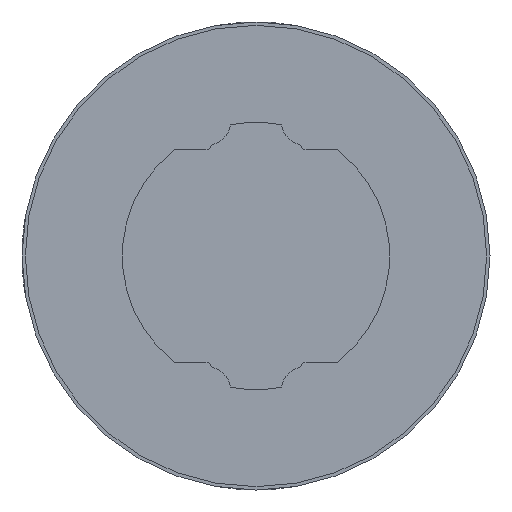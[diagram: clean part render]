
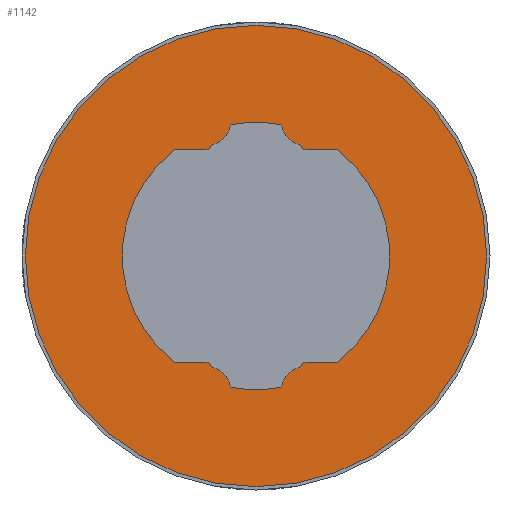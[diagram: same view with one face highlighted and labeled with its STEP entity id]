
A CAD part, left-side view. The second image highlights one B-rep face of the part: STEP entity #1142.
In plain terms, the highlighted planar face has unit normal (-1, 0, 0).
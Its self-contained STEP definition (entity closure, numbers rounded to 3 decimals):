
#46=PLANE('',#1265);
#101=LINE('',#1872,#189);
#102=LINE('',#1876,#190);
#103=LINE('',#1880,#191);
#104=LINE('',#1884,#192);
#105=LINE('',#1896,#193);
#106=LINE('',#1900,#194);
#107=LINE('',#1904,#195);
#108=LINE('',#1908,#196);
#189=VECTOR('',#1518,1000.);
#190=VECTOR('',#1521,1000.);
#191=VECTOR('',#1524,1000.);
#192=VECTOR('',#1527,1000.);
#193=VECTOR('',#1538,1000.);
#194=VECTOR('',#1541,1000.);
#195=VECTOR('',#1544,1000.);
#196=VECTOR('',#1547,1000.);
#381=ORIENTED_EDGE('',*,*,#641,.F.);
#382=ORIENTED_EDGE('',*,*,#642,.F.);
#383=ORIENTED_EDGE('',*,*,#643,.T.);
#384=ORIENTED_EDGE('',*,*,#644,.F.);
#385=ORIENTED_EDGE('',*,*,#645,.T.);
#386=ORIENTED_EDGE('',*,*,#646,.F.);
#387=ORIENTED_EDGE('',*,*,#647,.F.);
#388=ORIENTED_EDGE('',*,*,#648,.T.);
#389=ORIENTED_EDGE('',*,*,#649,.F.);
#390=ORIENTED_EDGE('',*,*,#650,.F.);
#391=ORIENTED_EDGE('',*,*,#651,.F.);
#392=ORIENTED_EDGE('',*,*,#652,.T.);
#393=ORIENTED_EDGE('',*,*,#653,.F.);
#394=ORIENTED_EDGE('',*,*,#654,.F.);
#395=ORIENTED_EDGE('',*,*,#655,.T.);
#396=ORIENTED_EDGE('',*,*,#656,.F.);
#397=ORIENTED_EDGE('',*,*,#657,.T.);
#398=ORIENTED_EDGE('',*,*,#658,.F.);
#399=ORIENTED_EDGE('',*,*,#659,.F.);
#400=ORIENTED_EDGE('',*,*,#660,.T.);
#401=ORIENTED_EDGE('',*,*,#661,.F.);
#402=ORIENTED_EDGE('',*,*,#662,.F.);
#403=ORIENTED_EDGE('',*,*,#663,.F.);
#404=ORIENTED_EDGE('',*,*,#664,.T.);
#405=ORIENTED_EDGE('',*,*,#665,.F.);
#641=EDGE_CURVE('',#783,#783,#881,.T.);
#642=EDGE_CURVE('',#784,#785,#882,.F.);
#643=EDGE_CURVE('',#784,#786,#883,.F.);
#644=EDGE_CURVE('',#787,#786,#884,.F.);
#645=EDGE_CURVE('',#787,#788,#885,.F.);
#646=EDGE_CURVE('',#789,#788,#886,.F.);
#647=EDGE_CURVE('',#790,#789,#101,.T.);
#648=EDGE_CURVE('',#790,#791,#887,.F.);
#649=EDGE_CURVE('',#792,#791,#102,.T.);
#650=EDGE_CURVE('',#793,#792,#888,.F.);
#651=EDGE_CURVE('',#794,#793,#103,.T.);
#652=EDGE_CURVE('',#794,#795,#889,.F.);
#653=EDGE_CURVE('',#796,#795,#104,.T.);
#654=EDGE_CURVE('',#797,#796,#890,.F.);
#655=EDGE_CURVE('',#797,#798,#891,.F.);
#656=EDGE_CURVE('',#799,#798,#892,.F.);
#657=EDGE_CURVE('',#799,#800,#893,.F.);
#658=EDGE_CURVE('',#801,#800,#894,.F.);
#659=EDGE_CURVE('',#802,#801,#105,.T.);
#660=EDGE_CURVE('',#802,#803,#895,.F.);
#661=EDGE_CURVE('',#804,#803,#106,.T.);
#662=EDGE_CURVE('',#805,#804,#896,.F.);
#663=EDGE_CURVE('',#806,#805,#107,.T.);
#664=EDGE_CURVE('',#806,#807,#897,.F.);
#665=EDGE_CURVE('',#785,#807,#108,.T.);
#783=VERTEX_POINT('',#1860);
#784=VERTEX_POINT('',#1862);
#785=VERTEX_POINT('',#1863);
#786=VERTEX_POINT('',#1865);
#787=VERTEX_POINT('',#1867);
#788=VERTEX_POINT('',#1869);
#789=VERTEX_POINT('',#1871);
#790=VERTEX_POINT('',#1873);
#791=VERTEX_POINT('',#1875);
#792=VERTEX_POINT('',#1877);
#793=VERTEX_POINT('',#1879);
#794=VERTEX_POINT('',#1881);
#795=VERTEX_POINT('',#1883);
#796=VERTEX_POINT('',#1885);
#797=VERTEX_POINT('',#1887);
#798=VERTEX_POINT('',#1889);
#799=VERTEX_POINT('',#1891);
#800=VERTEX_POINT('',#1893);
#801=VERTEX_POINT('',#1895);
#802=VERTEX_POINT('',#1897);
#803=VERTEX_POINT('',#1899);
#804=VERTEX_POINT('',#1901);
#805=VERTEX_POINT('',#1903);
#806=VERTEX_POINT('',#1905);
#807=VERTEX_POINT('',#1907);
#881=CIRCLE('',#1266,13.8);
#882=CIRCLE('',#1267,0.3);
#883=CIRCLE('',#1268,1.4);
#884=CIRCLE('',#1269,8.);
#885=CIRCLE('',#1270,1.4);
#886=CIRCLE('',#1271,0.3);
#887=CIRCLE('',#1272,0.3);
#888=CIRCLE('',#1273,8.);
#889=CIRCLE('',#1274,0.3);
#890=CIRCLE('',#1275,0.3);
#891=CIRCLE('',#1276,1.4);
#892=CIRCLE('',#1277,8.);
#893=CIRCLE('',#1278,1.4);
#894=CIRCLE('',#1279,0.3);
#895=CIRCLE('',#1280,0.3);
#896=CIRCLE('',#1281,8.);
#897=CIRCLE('',#1282,0.3);
#947=EDGE_LOOP('',(#381));
#948=EDGE_LOOP('',(#382,#383,#384,#385,#386,#387,#388,#389,#390,#391,#392,
#393,#394,#395,#396,#397,#398,#399,#400,#401,#402,#403,#404,#405));
#1025=FACE_BOUND('',#947,.T.);
#1026=FACE_BOUND('',#948,.T.);
#1142=ADVANCED_FACE('',(#1025,#1026),#46,.F.);
#1265=AXIS2_PLACEMENT_3D('',#1858,#1504,#1505);
#1266=AXIS2_PLACEMENT_3D('',#1859,#1506,#1507);
#1267=AXIS2_PLACEMENT_3D('',#1861,#1508,#1509);
#1268=AXIS2_PLACEMENT_3D('',#1864,#1510,#1511);
#1269=AXIS2_PLACEMENT_3D('',#1866,#1512,#1513);
#1270=AXIS2_PLACEMENT_3D('',#1868,#1514,#1515);
#1271=AXIS2_PLACEMENT_3D('',#1870,#1516,#1517);
#1272=AXIS2_PLACEMENT_3D('',#1874,#1519,#1520);
#1273=AXIS2_PLACEMENT_3D('',#1878,#1522,#1523);
#1274=AXIS2_PLACEMENT_3D('',#1882,#1525,#1526);
#1275=AXIS2_PLACEMENT_3D('',#1886,#1528,#1529);
#1276=AXIS2_PLACEMENT_3D('',#1888,#1530,#1531);
#1277=AXIS2_PLACEMENT_3D('',#1890,#1532,#1533);
#1278=AXIS2_PLACEMENT_3D('',#1892,#1534,#1535);
#1279=AXIS2_PLACEMENT_3D('',#1894,#1536,#1537);
#1280=AXIS2_PLACEMENT_3D('',#1898,#1539,#1540);
#1281=AXIS2_PLACEMENT_3D('',#1902,#1542,#1543);
#1282=AXIS2_PLACEMENT_3D('',#1906,#1545,#1546);
#1504=DIRECTION('',(1.,0.,0.));
#1505=DIRECTION('',(0.,0.,-1.));
#1506=DIRECTION('',(1.,0.,0.));
#1507=DIRECTION('',(0.,0.,-1.));
#1508=DIRECTION('',(1.,0.,0.));
#1509=DIRECTION('',(0.,0.,-1.));
#1510=DIRECTION('',(1.,0.,0.));
#1511=DIRECTION('',(0.,0.,-1.));
#1512=DIRECTION('',(1.,0.,0.));
#1513=DIRECTION('',(0.,0.,-1.));
#1514=DIRECTION('',(1.,0.,0.));
#1515=DIRECTION('',(0.,0.,-1.));
#1516=DIRECTION('',(1.,0.,0.));
#1517=DIRECTION('',(0.,0.,-1.));
#1518=DIRECTION('',(0.,0.5,0.866));
#1519=DIRECTION('',(1.,0.,0.));
#1520=DIRECTION('',(0.,0.,-1.));
#1521=DIRECTION('',(0.,1.,0.));
#1522=DIRECTION('',(1.,0.,0.));
#1523=DIRECTION('',(0.,0.,-1.));
#1524=DIRECTION('',(0.,-1.,0.));
#1525=DIRECTION('',(1.,0.,0.));
#1526=DIRECTION('',(0.,0.,-1.));
#1527=DIRECTION('',(0.,-0.5,0.866));
#1528=DIRECTION('',(1.,0.,0.));
#1529=DIRECTION('',(0.,0.,-1.));
#1530=DIRECTION('',(1.,0.,0.));
#1531=DIRECTION('',(0.,0.,-1.));
#1532=DIRECTION('',(1.,0.,0.));
#1533=DIRECTION('',(0.,0.,-1.));
#1534=DIRECTION('',(1.,0.,0.));
#1535=DIRECTION('',(0.,0.,-1.));
#1536=DIRECTION('',(1.,0.,0.));
#1537=DIRECTION('',(0.,0.,-1.));
#1538=DIRECTION('',(0.,-0.5,-0.866));
#1539=DIRECTION('',(1.,0.,0.));
#1540=DIRECTION('',(0.,0.,-1.));
#1541=DIRECTION('',(0.,-1.,0.));
#1542=DIRECTION('',(1.,0.,0.));
#1543=DIRECTION('',(0.,0.,-1.));
#1544=DIRECTION('',(0.,1.,0.));
#1545=DIRECTION('',(1.,0.,0.));
#1546=DIRECTION('',(0.,0.,-1.));
#1547=DIRECTION('',(0.,0.5,-0.866));
#1858=CARTESIAN_POINT('',(-23.2,0.,0.));
#1859=CARTESIAN_POINT('',(-23.2,0.,0.));
#1860=CARTESIAN_POINT('',(-23.2,0.,-13.8));
#1861=CARTESIAN_POINT('',(-23.2,2.448,6.402));
#1862=CARTESIAN_POINT('',(-23.2,2.532,6.69));
#1863=CARTESIAN_POINT('',(-23.2,2.708,6.552));
#1864=CARTESIAN_POINT('',(-23.2,2.924,8.034));
#1865=CARTESIAN_POINT('',(-23.2,1.536,7.851));
#1866=CARTESIAN_POINT('',(-23.2,0.,0.));
#1867=CARTESIAN_POINT('',(-23.2,-1.536,7.851));
#1868=CARTESIAN_POINT('',(-23.2,-2.924,8.034));
#1869=CARTESIAN_POINT('',(-23.2,-2.532,6.69));
#1870=CARTESIAN_POINT('',(-23.2,-2.448,6.402));
#1871=CARTESIAN_POINT('',(-23.2,-2.708,6.552));
#1872=CARTESIAN_POINT('',(-23.2,-4.868,2.811));
#1873=CARTESIAN_POINT('',(-23.2,-2.738,6.5));
#1874=CARTESIAN_POINT('',(-23.2,-2.998,6.65));
#1875=CARTESIAN_POINT('',(-23.2,-2.998,6.35));
#1876=CARTESIAN_POINT('',(-23.2,0.,6.35));
#1877=CARTESIAN_POINT('',(-23.2,-4.866,6.35));
#1878=CARTESIAN_POINT('',(-23.2,0.,0.));
#1879=CARTESIAN_POINT('',(-23.2,-4.866,-6.35));
#1880=CARTESIAN_POINT('',(-23.2,0.,-6.35));
#1881=CARTESIAN_POINT('',(-23.2,-2.998,-6.35));
#1882=CARTESIAN_POINT('',(-23.2,-2.998,-6.65));
#1883=CARTESIAN_POINT('',(-23.2,-2.738,-6.5));
#1884=CARTESIAN_POINT('',(-23.2,-4.868,-2.811));
#1885=CARTESIAN_POINT('',(-23.2,-2.708,-6.552));
#1886=CARTESIAN_POINT('',(-23.2,-2.448,-6.402));
#1887=CARTESIAN_POINT('',(-23.2,-2.532,-6.69));
#1888=CARTESIAN_POINT('',(-23.2,-2.924,-8.034));
#1889=CARTESIAN_POINT('',(-23.2,-1.536,-7.851));
#1890=CARTESIAN_POINT('',(-23.2,0.,0.));
#1891=CARTESIAN_POINT('',(-23.2,1.536,-7.851));
#1892=CARTESIAN_POINT('',(-23.2,2.924,-8.034));
#1893=CARTESIAN_POINT('',(-23.2,2.532,-6.69));
#1894=CARTESIAN_POINT('',(-23.2,2.448,-6.402));
#1895=CARTESIAN_POINT('',(-23.2,2.708,-6.552));
#1896=CARTESIAN_POINT('',(-23.2,4.868,-2.811));
#1897=CARTESIAN_POINT('',(-23.2,2.738,-6.5));
#1898=CARTESIAN_POINT('',(-23.2,2.998,-6.65));
#1899=CARTESIAN_POINT('',(-23.2,2.998,-6.35));
#1900=CARTESIAN_POINT('',(-23.2,0.,-6.35));
#1901=CARTESIAN_POINT('',(-23.2,4.866,-6.35));
#1902=CARTESIAN_POINT('',(-23.2,0.,0.));
#1903=CARTESIAN_POINT('',(-23.2,4.866,6.35));
#1904=CARTESIAN_POINT('',(-23.2,0.,6.35));
#1905=CARTESIAN_POINT('',(-23.2,2.998,6.35));
#1906=CARTESIAN_POINT('',(-23.2,2.998,6.65));
#1907=CARTESIAN_POINT('',(-23.2,2.738,6.5));
#1908=CARTESIAN_POINT('',(-23.2,4.868,2.811));
